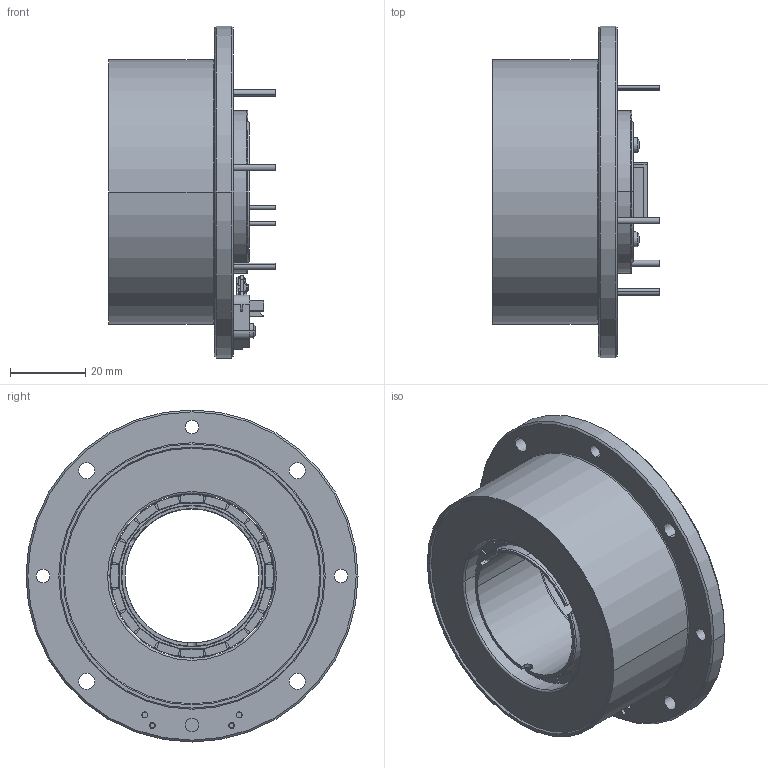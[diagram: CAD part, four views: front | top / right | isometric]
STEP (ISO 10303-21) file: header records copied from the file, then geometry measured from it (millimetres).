
FILE_DESCRIPTION((''),'2;1');
FILE_NAME('AXIALER-STECKERABGANG_SW0001','2024-01-31T07:59:59',('MMAGVISI'),(''),'CREO PARAMETRIC BY PTC INC, 2023092','CREO PARAMETRIC BY PTC INC, 2023092','');
FILE_SCHEMA(('CONFIG_CONTROL_DESIGN','SHAPE_APPEARANCE_LAYERS_GROUPS'));
Products named in the file (1): AXIALER-STECKERABGANG_SW0001
Bounding box: 44.2 x 88 x 88 mm (x, y, z)
Volume: 99211.8 mm3; surface area: 40488.6 mm2
Topology: 22 solids, 23 shells, 3052 faces, 8215 edges, 5011 vertices
Faces by surface type: plane 1850, cylinder 813, sphere 228, torus 98, cone 62, bspline 1
Entity records: 119234 total; most frequent: CARTESIAN_POINT 19718, ORIENTED_EDGE 15992, DIRECTION 15051, PRESENTATION_STYLE_ASSIGNMENT 8018, STYLED_ITEM 8018, CURVE_STYLE 7996, EDGE_CURVE 7996, VECTOR 5879
